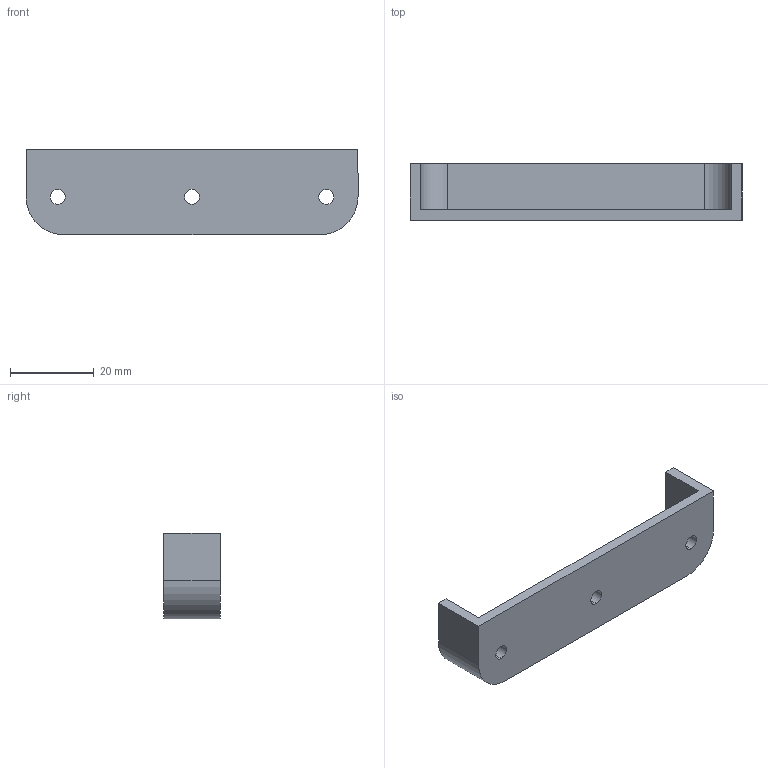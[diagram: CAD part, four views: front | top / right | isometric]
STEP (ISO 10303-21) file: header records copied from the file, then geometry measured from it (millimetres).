
FILE_DESCRIPTION (( 'STEP AP214' ), '1' );
FILE_NAME ('5030_V01_POCKET_OPEN_DBL_CLIP_SER.STEP', '2025-06-19T15:50:42', ( '' ), ( '' ), 'SwSTEP 2.0', 'SolidWorks 2025', '' );
FILE_SCHEMA (( 'AUTOMOTIVE_DESIGN' ));
Length unit declared in the file: inch
Products named in the file (1): 5030_V01_POCKET_OPEN_DBL_CLIP_SER
Bounding box: 79.1 x 13.54 x 20.37 mm (x, y, z)
Volume: 6947.1 mm3; surface area: 6096.8 mm2
Topology: 1 solids, 1 shells, 20 faces, 54 edges, 36 vertices
Faces by surface type: cylinder 10, plane 10
Entity records: 677 total; most frequent: DIRECTION 116, CARTESIAN_POINT 111, ORIENTED_EDGE 108, EDGE_CURVE 54, AXIS2_PLACEMENT_3D 41, VERTEX_POINT 36, VECTOR 34, LINE 34
